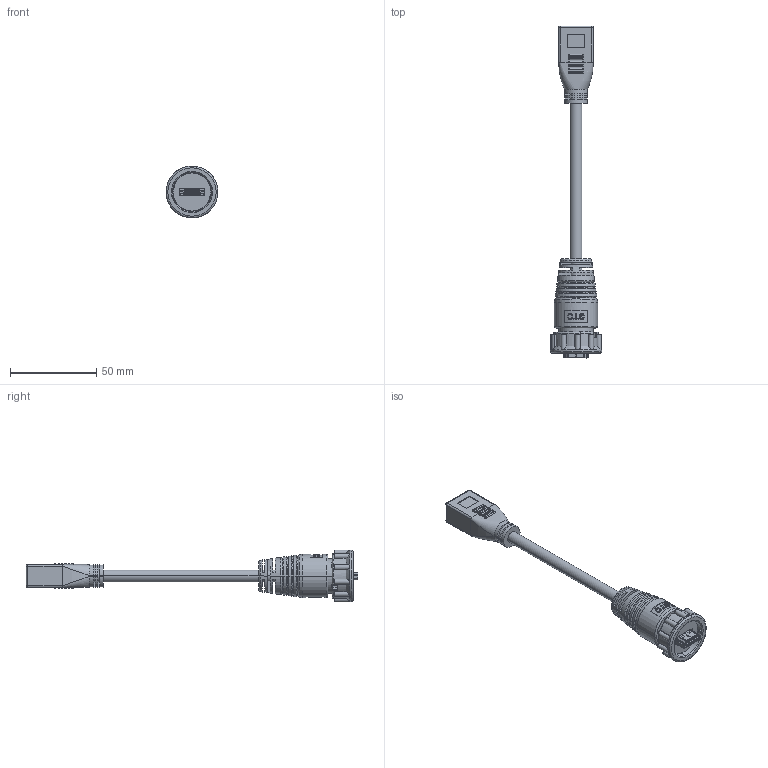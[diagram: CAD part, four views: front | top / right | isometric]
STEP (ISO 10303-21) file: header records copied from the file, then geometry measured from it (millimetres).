
FILE_DESCRIPTION (( 'STEP AP203' ), '1' );
FILE_NAME ('GT1H1220-01-XX.STEP', '2016-01-05T01:26:57', ( '' ), ( '' ), 'SwSTEP 2.0', 'SolidWorks 2012', '' );
FILE_SCHEMA (( 'CONFIG_CONTROL_DESIGN' ));
Length unit declared in the file: millimetre
Products named in the file (9): GT1H1220-01-XX; HDMI非防水母頭; 83024-F0101; HDMI F外模; 651H1-00020; 701H1-X7101; 661D4-20010; 691H1-X4101; 83024-M0101
Assembly tree (8 placements, depth 3):
  GT1H1220-01-XX
    83024-M0101
    691H1-X4101
    661D4-20010
    701H1-X7101
    651H1-00020
    HDMI非防水母頭
      HDMI F外模
      83024-F0101
Bounding box: 30 x 192.05 x 30 mm (x, y, z)
Volume: 41400 mm3; surface area: 21818.9 mm2
Topology: 10 solids, 10 shells, 2626 faces, 7420 edges, 4765 vertices
Faces by surface type: plane 1798, cylinder 575, bspline 100, torus 60, sphere 52, cone 41
Entity records: 87288 total; most frequent: CARTESIAN_POINT 18438, ORIENTED_EDGE 14736, DIRECTION 13383, EDGE_CURVE 7368, VECTOR 5585, LINE 5585, VERTEX_POINT 4764, AXIS2_PLACEMENT_3D 3899
